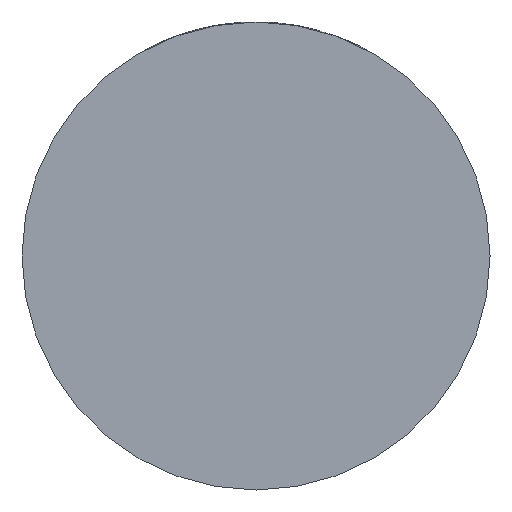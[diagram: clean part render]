
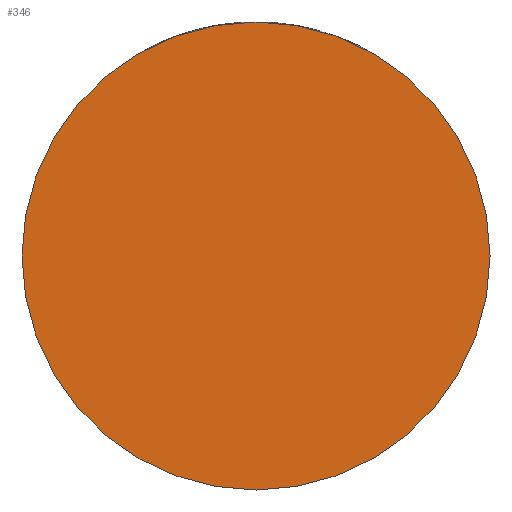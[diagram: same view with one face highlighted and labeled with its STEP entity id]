
A CAD part, front view. The second image highlights one B-rep face of the part: STEP entity #346.
In plain terms, the highlighted planar face has unit normal (0, -1, 0).
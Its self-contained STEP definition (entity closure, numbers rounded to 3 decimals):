
#41 = EDGE_LOOP ( 'NONE', ( #60, #2608 ) ) ;
#60 = ORIENTED_EDGE ( 'NONE', *, *, #4028, .T. ) ;
#73 = PLANE ( 'NONE',  #1776 ) ;
#123 = DIRECTION ( 'NONE',  ( 0., -1., 0. ) ) ;
#302 = VERTEX_POINT ( 'NONE', #3507 ) ;
#346 = ADVANCED_FACE ( 'NONE', ( #746 ), #73, .T. ) ;
#445 = DIRECTION ( 'NONE',  ( 1., 0., 0. ) ) ;
#666 = CARTESIAN_POINT ( 'NONE',  ( 0., -39., 0. ) ) ;
#746 = FACE_OUTER_BOUND ( 'NONE', #41, .T. ) ;
#875 = VERTEX_POINT ( 'NONE', #2526 ) ;
#1036 = CARTESIAN_POINT ( 'NONE',  ( 0., -39., 0. ) ) ;
#1075 = DIRECTION ( 'NONE',  ( 1., 0., 0. ) ) ;
#1695 = DIRECTION ( 'NONE',  ( 1., 0., 0. ) ) ;
#1776 = AXIS2_PLACEMENT_3D ( 'NONE', #1036, #4262, #1075 ) ;
#2062 = DIRECTION ( 'NONE',  ( 0., -1., 0. ) ) ;
#2294 = CIRCLE ( 'NONE', #4353, 39. ) ;
#2504 = EDGE_CURVE ( 'NONE', #302, #875, #3203, .T. ) ;
#2526 = CARTESIAN_POINT ( 'NONE',  ( -39., -39., 0. ) ) ;
#2608 = ORIENTED_EDGE ( 'NONE', *, *, #2504, .T. ) ;
#3203 = CIRCLE ( 'NONE', #4241, 39. ) ;
#3507 = CARTESIAN_POINT ( 'NONE',  ( 39., -39., 0. ) ) ;
#4028 = EDGE_CURVE ( 'NONE', #875, #302, #2294, .T. ) ;
#4241 = AXIS2_PLACEMENT_3D ( 'NONE', #4382, #123, #445 ) ;
#4262 = DIRECTION ( 'NONE',  ( 0., -1., 0. ) ) ;
#4353 = AXIS2_PLACEMENT_3D ( 'NONE', #666, #2062, #1695 ) ;
#4382 = CARTESIAN_POINT ( 'NONE',  ( 0., -39., 0. ) ) ;
